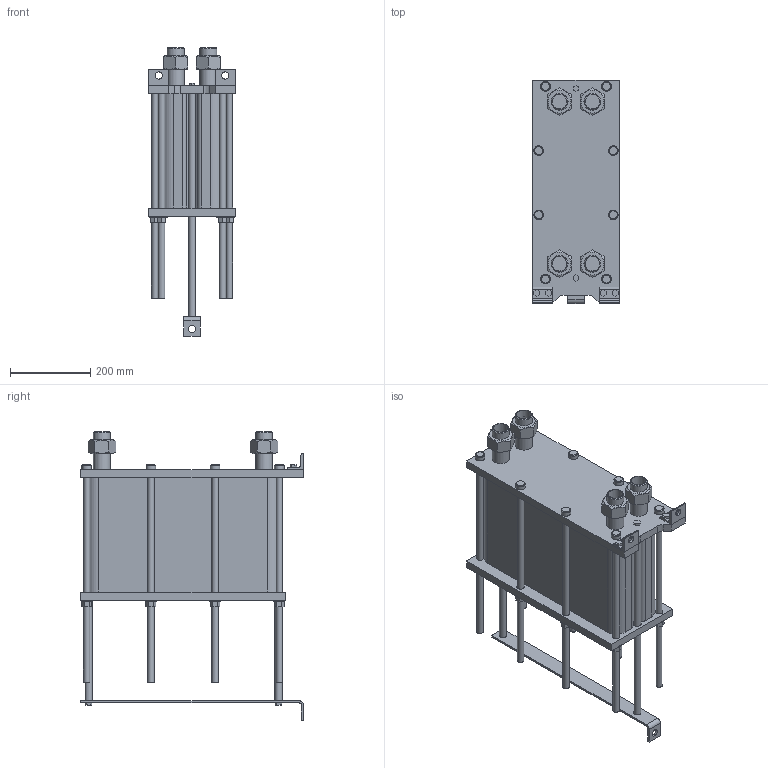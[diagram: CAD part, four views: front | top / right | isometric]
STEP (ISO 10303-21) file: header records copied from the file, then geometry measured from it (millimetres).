
FILE_DESCRIPTION(/* description */ (''),/* implementation_level */ '2;1');
FILE_NAME(/* name */ 'C:\Users\zhuro\Desktop\ENCO\TO\ЭН-004\ЭН-0,5-004-92-1.stp',/* time_stamp */ '2022-06-06T10:51:29+03:00',/* author */ ('zhuro'),/* organization */ (''),/* preprocessor_version */ 'ST-DEVELOPER v18.1',/* originating_system */ 'Autodesk Inventor 2022',/* authorisation */ '');
FILE_SCHEMA (('AUTOMOTIVE_DESIGN { 1 0 10303 214 3 1 1 }'));
Length unit declared in the file: millimetre
Products named in the file (1): ЭН-0,5-004-92-1
Bounding box: 216 x 555 x 718.6 mm (x, y, z)
Volume: 27115356.6 mm3; surface area: 1576253.1 mm2
Topology: 40 solids, 40 shells, 403 faces, 865 edges, 574 vertices
Faces by surface type: plane 272, cylinder 103, cone 28
Full cylindrical faces by diameter (mm): 10 x4, 16 x16, 18 x29, 20 x2, 24 x8, 28 x8, 36.3 x5, 42.3 x9
Entity records: 11137 total; most frequent: CARTESIAN_POINT 1939, DIRECTION 1879, ORIENTED_EDGE 1730, EDGE_CURVE 865, AXIS2_PLACEMENT_3D 658, VERTEX_POINT 574, LINE 563, VECTOR 563
